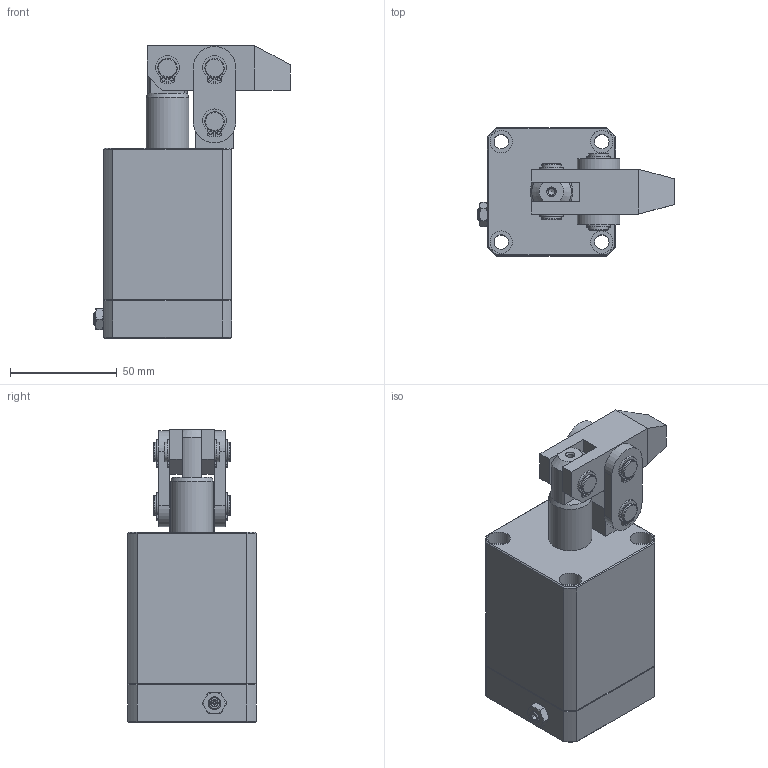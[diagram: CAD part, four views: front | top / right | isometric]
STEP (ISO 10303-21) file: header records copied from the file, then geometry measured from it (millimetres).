
FILE_DESCRIPTION(/* description */ ('Unknown'),/* implementation_level */ '2;1');
FILE_NAME(/* name */ 'HLB-MF32-A',/* time_stamp */ '2025-06-04T01:12:00+08:00',/* author */ ('Unknown'),/* organization */ ('Unknown'),/* preprocessor_version */ 'ST-DEVELOPER v16.7',/* originating_system */ 'DEX',/* authorisation */ $);
FILE_SCHEMA (('AUTOMOTIVE_DESIGN {1 0 10303 214 3 1 1}'));
Length unit declared in the file: millimetre
Products named in the file (8): HLB-MF32-A; HLB-MF32-CYLINDER; HLB-32-墊; HLB-32-A; HLB-3202-AXLE CENTRE; HLB-32-PINµu; HLB-32-PINªø; HLB-32-C扣2
Assembly tree (14 placements, depth 2):
  HLB-MF32-A
    HLB-MF32-CYLINDER
    HLB-32-墊  x2
    HLB-32-A
    HLB-3202-AXLE CENTRE
    HLB-32-PINµu
    HLB-32-PINªø  x2
    HLB-32-C扣2  x6
Bounding box: 92.1 x 60 x 137 mm (x, y, z)
Volume: 334330.4 mm3; surface area: 67208.2 mm2
Topology: 14 solids, 14 shells, 306 faces, 714 edges, 462 vertices
Faces by surface type: plane 138, cylinder 116, cone 32, bspline 12, torus 8
Full cylindrical faces by diameter (mm): 1.575 x12, 3.2 x1, 5 x2, 6 x1, 6.8 x4, 8.5 x10, 9 x14, 10 x2, 10.5 x4, 20 x2, 32 x2
Entity records: 5771 total; most frequent: CARTESIAN_POINT 1298, DIRECTION 869, ORIENTED_EDGE 784, EDGE_CURVE 392, AXIS2_PLACEMENT_3D 358, FACE_BOUND 304, EDGE_LOOP 303, VERTEX_POINT 274
